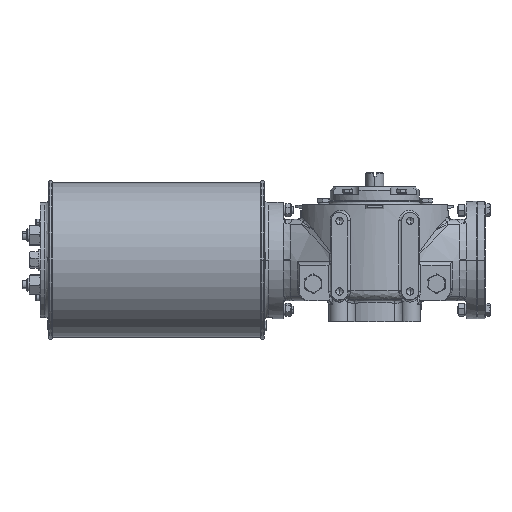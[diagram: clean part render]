
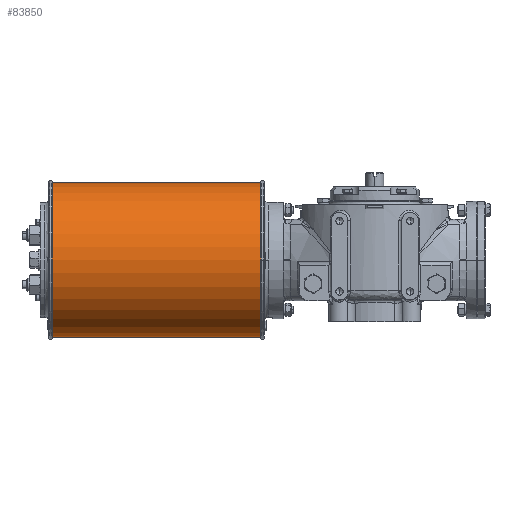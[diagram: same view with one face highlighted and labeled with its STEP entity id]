
A CAD part, front view. The second image highlights one B-rep face of the part: STEP entity #83850.
In plain terms, the highlighted cylindrical face has radius 109.5 mm (diameter 219 mm), a partial arc.
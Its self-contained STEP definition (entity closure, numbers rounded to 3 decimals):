
#267 = CARTESIAN_POINT ( 'NONE',  ( -456.5, 22.5, 57.5 ) ) ;
#1551 = EDGE_CURVE ( 'NONE', #93233, #80331, #15316, .T. ) ;
#3804 = LINE ( 'NONE', #44824, #82815 ) ;
#7302 = DIRECTION ( 'NONE',  ( 0., 0., -1. ) ) ;
#8362 = LINE ( 'NONE', #39524, #52749 ) ;
#15056 = CARTESIAN_POINT ( 'NONE',  ( -161.5, 22.5, 167. ) ) ;
#15316 = CIRCLE ( 'NONE', #33289, 109.5 ) ;
#23915 = VERTEX_POINT ( 'NONE', #15056 ) ;
#26708 = CARTESIAN_POINT ( 'NONE',  ( -456.5, 22.5, -52. ) ) ;
#27902 = VERTEX_POINT ( 'NONE', #89569 ) ;
#31007 = CARTESIAN_POINT ( 'NONE',  ( -456.5, 22.5, 167. ) ) ;
#31687 = AXIS2_PLACEMENT_3D ( 'NONE', #49896, #65245, #88269 ) ;
#33289 = AXIS2_PLACEMENT_3D ( 'NONE', #74381, #43101, #66100 ) ;
#39175 = EDGE_CURVE ( 'NONE', #80331, #27902, #3804, .T. ) ;
#39524 = CARTESIAN_POINT ( 'NONE',  ( -456.5, 22.5, 167. ) ) ;
#41170 = CYLINDRICAL_SURFACE ( 'NONE', #95051, 109.5 ) ;
#43101 = DIRECTION ( 'NONE',  ( 1., 0., 0. ) ) ;
#43118 = CIRCLE ( 'NONE', #31687, 109.5 ) ;
#44357 = EDGE_CURVE ( 'NONE', #27902, #23915, #43118, .T. ) ;
#44824 = CARTESIAN_POINT ( 'NONE',  ( -456.5, 22.5, -52. ) ) ;
#49896 = CARTESIAN_POINT ( 'NONE',  ( -161.5, 22.5, 57.5 ) ) ;
#50431 = EDGE_CURVE ( 'NONE', #93233, #23915, #8362, .T. ) ;
#52749 = VECTOR ( 'NONE', #77507, 1000. ) ;
#61868 = DIRECTION ( 'NONE',  ( 1., 0., 0. ) ) ;
#61946 = ORIENTED_EDGE ( 'NONE', *, *, #39175, .T. ) ;
#65245 = DIRECTION ( 'NONE',  ( -1., 0., 0. ) ) ;
#66100 = DIRECTION ( 'NONE',  ( 0., 0., -1. ) ) ;
#66249 = EDGE_LOOP ( 'NONE', ( #82464, #68364, #61946, #88528 ) ) ;
#68364 = ORIENTED_EDGE ( 'NONE', *, *, #1551, .T. ) ;
#74381 = CARTESIAN_POINT ( 'NONE',  ( -456.5, 22.5, 57.5 ) ) ;
#77507 = DIRECTION ( 'NONE',  ( 1., 0., 0. ) ) ;
#80331 = VERTEX_POINT ( 'NONE', #26708 ) ;
#82464 = ORIENTED_EDGE ( 'NONE', *, *, #50431, .F. ) ;
#82815 = VECTOR ( 'NONE', #90108, 1000. ) ;
#83850 = ADVANCED_FACE ( 'NONE', ( #91320 ), #41170, .T. ) ;
#88269 = DIRECTION ( 'NONE',  ( 0., 0., -1. ) ) ;
#88528 = ORIENTED_EDGE ( 'NONE', *, *, #44357, .T. ) ;
#89569 = CARTESIAN_POINT ( 'NONE',  ( -161.5, 22.5, -52. ) ) ;
#90108 = DIRECTION ( 'NONE',  ( 1., 0., 0. ) ) ;
#91320 = FACE_OUTER_BOUND ( 'NONE', #66249, .T. ) ;
#93233 = VERTEX_POINT ( 'NONE', #31007 ) ;
#95051 = AXIS2_PLACEMENT_3D ( 'NONE', #267, #61868, #7302 ) ;
